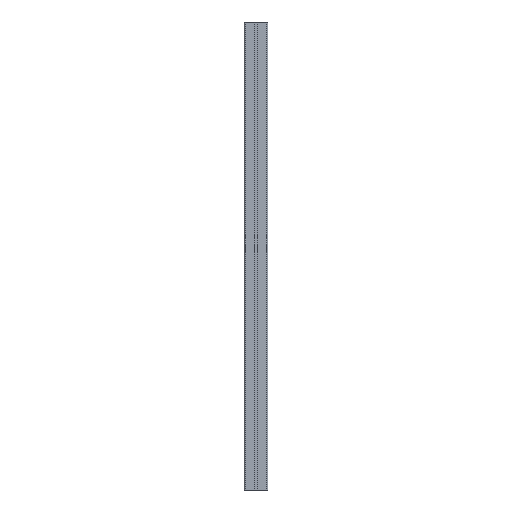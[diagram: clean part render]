
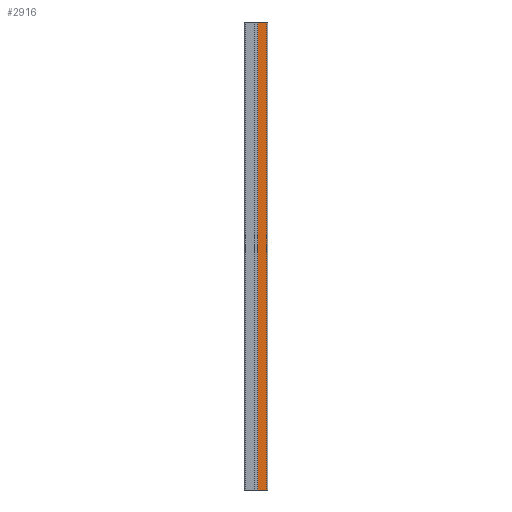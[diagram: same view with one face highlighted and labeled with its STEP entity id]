
A CAD part, front view. The second image highlights one B-rep face of the part: STEP entity #2916.
In plain terms, the highlighted planar face has unit normal (0, -1, 0).
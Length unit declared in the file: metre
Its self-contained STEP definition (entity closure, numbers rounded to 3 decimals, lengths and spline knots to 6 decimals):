
#82=PLANE('',#3181);
#226=FACE_OUTER_BOUND('',#372,.T.);
#372=EDGE_LOOP('',(#2340,#2341,#2342,#2343));
#644=LINE('',#4760,#956);
#645=LINE('',#4763,#957);
#646=LINE('',#4765,#958);
#647=LINE('',#4766,#959);
#956=VECTOR('',#3913,1.);
#957=VECTOR('',#3916,0.01935);
#958=VECTOR('',#3917,0.01935);
#959=VECTOR('',#3918,1.);
#1388=VERTEX_POINT('',#4756);
#1389=VERTEX_POINT('',#4758);
#1390=VERTEX_POINT('',#4762);
#1391=VERTEX_POINT('',#4764);
#1792=EDGE_CURVE('',#1388,#1389,#644,.T.);
#1793=EDGE_CURVE('',#1390,#1388,#645,.T.);
#1794=EDGE_CURVE('',#1391,#1389,#646,.T.);
#1795=EDGE_CURVE('',#1390,#1391,#647,.T.);
#2340=ORIENTED_EDGE('',*,*,#1793,.T.);
#2341=ORIENTED_EDGE('',*,*,#1792,.T.);
#2342=ORIENTED_EDGE('',*,*,#1794,.F.);
#2343=ORIENTED_EDGE('',*,*,#1795,.F.);
#2916=ADVANCED_FACE('',(#226),#82,.T.);
#3181=AXIS2_PLACEMENT_3D('',#4761,#3914,#3915);
#3913=DIRECTION('',(0.,0.,1.));
#3914=DIRECTION('center_axis',(0.,-1.,0.));
#3915=DIRECTION('ref_axis',(0.,0.,-1.));
#3916=DIRECTION('',(1.,0.,0.));
#3917=DIRECTION('',(1.,0.,0.));
#3918=DIRECTION('',(0.,0.,1.));
#4756=CARTESIAN_POINT('',(0.0235,-0.025,0.));
#4758=CARTESIAN_POINT('',(0.0235,-0.025,1.));
#4760=CARTESIAN_POINT('',(0.0235,-0.025,0.));
#4761=CARTESIAN_POINT('Origin',(0.00415,-0.025,0.));
#4762=CARTESIAN_POINT('',(0.00415,-0.025,0.));
#4763=CARTESIAN_POINT('',(0.00415,-0.025,0.));
#4764=CARTESIAN_POINT('',(0.00415,-0.025,1.));
#4765=CARTESIAN_POINT('',(0.00415,-0.025,1.));
#4766=CARTESIAN_POINT('',(0.00415,-0.025,0.));
